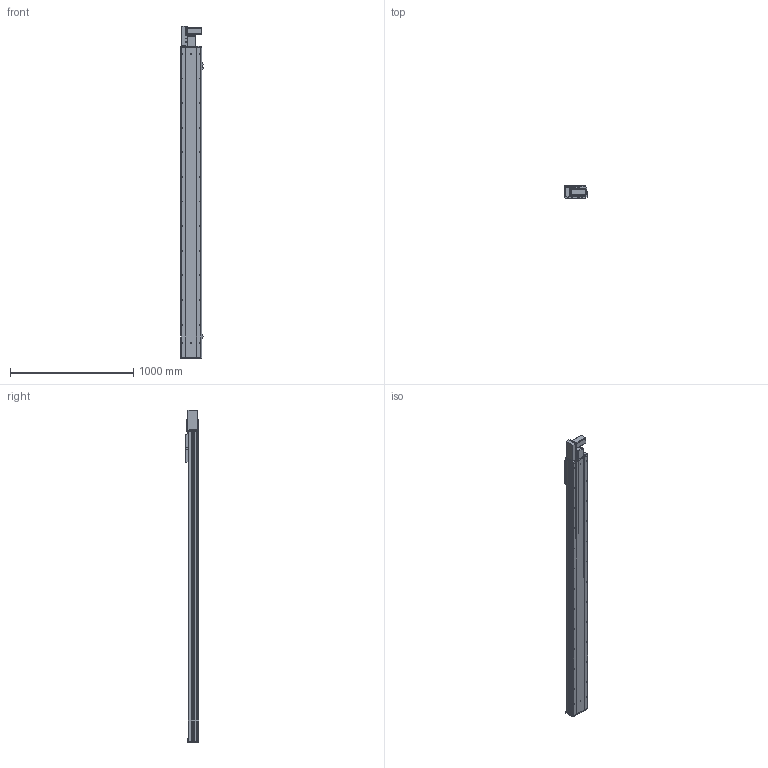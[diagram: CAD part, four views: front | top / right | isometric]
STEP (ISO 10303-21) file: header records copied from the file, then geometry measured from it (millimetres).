
FILE_DESCRIPTION (( 'STEP AP203' ), '1' );
FILE_NAME ('Y170CB-D105-S2200-BL-P400W.STEP', '2020-02-20T01:41:17', ( '微软用户' ), ( '微软中国' ), 'SwSTEP 2.0', 'SolidWorks 2017', '' );
FILE_SCHEMA (( 'CONFIG_CONTROL_DESIGN' ));
Length unit declared in the file: millimetre
Products named in the file (18): 0C--雄赽釱俋欶-170; san松下电机400不带刹车----; 70CB-詩湍--; Y70俋欶BR----; Y100-135俋离換覜ん--; 70CB-掛极-; Y170CB-陔俋离換覜結え---; --70CB --喘謫眊楊擘啣-; 70B喘謫眊----; 70CB-耜裔啣-; Y1埴倛裔; 70C--詩湍揤踡え-; B-源倛裔啣; Y170CB-D105-S2200-BL-P400W; 70CB--耜裔; 17B-耜蚾蟀諉啣----; 70C-雄赽釱-奻-; 0B-萇儂楊擘啣
Assembly tree (21 placements, depth 2):
  Y170CB-D105-S2200-BL-P400W
    B-源倛裔啣
    17B-耜蚾蟀諉啣----
    0B-萇儂楊擘啣
    san松下电机400不带刹车----
    Y70俋欶BR----
    70CB-掛极-
    --70CB --喘謫眊楊擘啣-
    70CB-耜裔啣-  x2
    70C--詩湍揤踡え-  x2
    70CB--耜裔
    70C-雄赽釱-奻-
    0C--雄赽釱俋欶-170
    70CB-詩湍--
    Y100-135俋离換覜ん--  x3
    Y170CB-陔俋离換覜結え---
    70B喘謫眊----
    Y1埴倛裔
Bounding box: 183.5 x 107 x 2697 mm (x, y, z)
Volume: 11262445.1 mm3; surface area: 4061518.6 mm2
Topology: 21 solids, 21 shells, 1055 faces, 2837 edges, 1882 vertices
Faces by surface type: cylinder 567, plane 464, cone 24
Entity records: 33780 total; most frequent: CARTESIAN_POINT 6216, DIRECTION 5494, ORIENTED_EDGE 5156, EDGE_CURVE 2578, AXIS2_PLACEMENT_3D 2024, VERTEX_POINT 1712, LINE 1446, VECTOR 1446
